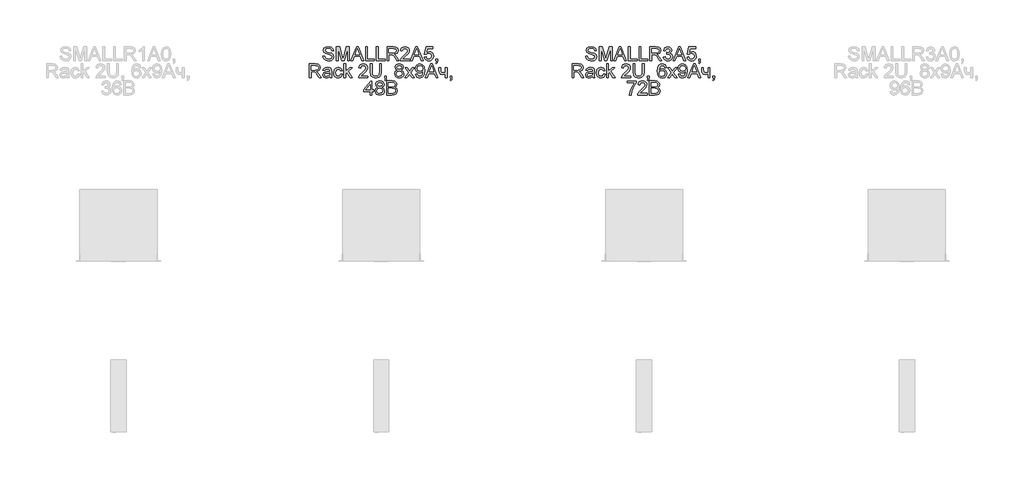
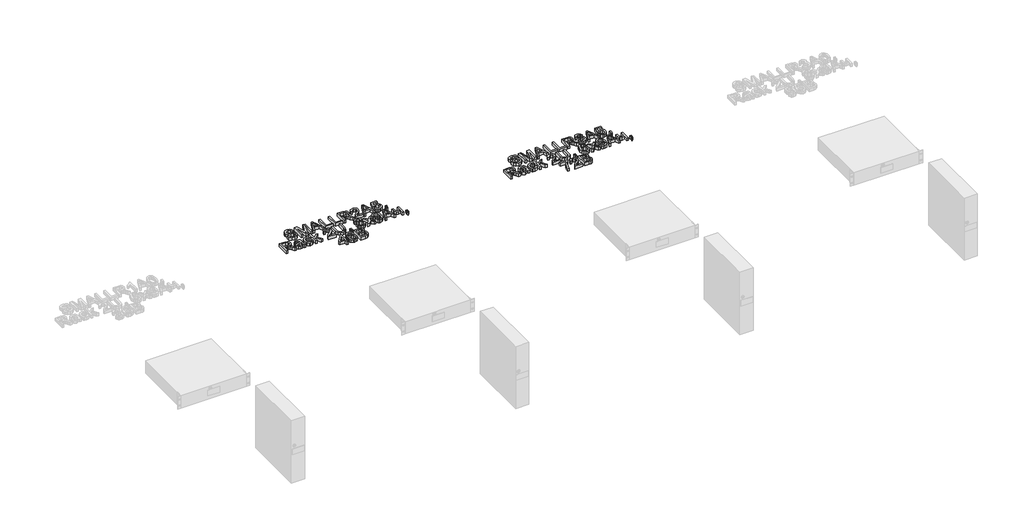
# One storey, part 17 of 74: 2 proxies.
"""IFC4 building model written with IfcOpenShell, lengths in millimetres."""

from ifc_helpers import new_model, si_unit, origin, origin_with_axes, place, context, project, spatial, polyline, outline, extrude, element, save

model = new_model("IFC4")

# Units and contexts
model_context = context("Model", 3, world=origin())
ifc_project = project(units=[si_unit("LENGTHUNIT", "METRE", prefix="MILLI")], contexts=[model_context])

# Site, building, storey
site = spatial("IfcSite", under=ifc_project)
building = spatial("IfcBuilding", under=site)
storey = spatial("IfcBuildingStorey", under=building, Name="Этаж 01", Elevation=0.0)

# Proxies
placement = place(None, origin())
element("IfcBuildingElementProxy", 1, Name="80 мм Arial", ObjectType="80 мм Arial", at=placement, inside=storey, context=model_context, shape_type="SweptSolid", body=[
    extrude(outline(polyline([(4019.2043971, -23060.6810362), (4029.2500281, -23060.6810362), (4032.4873897, -23070.7364774), (4040.3944, -23077.0934783), (4052.4413091, -23079.5165944), (4062.9382087, -23077.6820895), (4069.7170476, -23072.6396536), (4071.9439599, -23065.9000555), (4070.2762282, -23059.6313463), (4063.4483384, -23055.0696095), (4048.8213503, -23051.2338266), (4033.0760009, -23046.2796824), (4024.5313284, -23038.8043203), (4021.7158049, -23028.8175504), (4025.1984211, -23017.4475442), (4035.3715845, -23009.4228116), (4050.2634477, -23006.6857695), (4066.1559499, -23009.550344), (4076.7509513, -23017.967484), (4080.7338871, -23030.5441432), (4070.6882561, -23030.5441432), (4064.9983479, -23020.223827), (4050.6558552, -23016.7314005), (4036.2741217, -23020.1845862), (4031.7614359, -23028.5232448), (4034.9595567, -23035.4884772), (4051.3621886, -23041.0999039), (4069.1382466, -23046.1423398), (4078.8601415, -23054.2847946), (4081.989591, -23065.6449906), (4078.3892525, -23077.6624691), (4068.0296955, -23086.4327759), (4052.8337166, -23089.5622254), (4034.8908854, -23086.1875212), (4023.5404996, -23076.024168), (4019.2043971, -23060.6810362)])), origin_with_axes(), (0.0, 0.0, 1.0), 20.0),
    extrude(outline(polyline([(4097.0580375, -23088.3065215), (4097.0580375, -23007.9414734), (4114.3435862, -23007.9414734), (4130.7854588, -23064.5854905), (4134.1013018, -23076.4165754), (4137.6918301, -23063.6044718), (4153.8590175, -23007.9414734), (4171.1445662, -23007.9414734), (4171.1445662, -23088.3065215), (4161.0989352, -23088.3065215), (4161.0989352, -23017.9871044), (4140.9095713, -23088.3065215), (4127.2930324, -23088.3065215), (4107.1036685, -23017.9871044), (4107.1036685, -23088.3065215), (4097.0580375, -23088.3065215)])), origin_with_axes(), (0.0, 0.0, 1.0), 20.0),
    extrude(outline(polyline([(4179.3655025, -23088.3065215), (4211.4448125, -23007.9414734), (4219.9992952, -23007.9414734), (4252.0786052, -23088.3065215), (4241.4639833, -23088.3065215), (4232.2620283, -23063.192444), (4199.162459, -23063.192444), (4189.9801244, -23088.3065215), (4179.3655025, -23088.3065215)]), holes=[polyline([(4202.8510891, -23053.146813), (4228.5930186, -23053.146813), (4221.3531009, -23033.3890973), (4215.7220538, -23017.9871044), (4210.7188587, -23031.6625045), (4202.8510891, -23053.146813)])]), origin_with_axes(), (0.0, 0.0, 1.0), 20.0),
    extrude(outline(polyline([(4262.8109492, -23088.3065215), (4262.8109492, -23007.9414734), (4272.8565802, -23007.9414734), (4272.8565802, -23078.2608905), (4313.0391043, -23078.2608905), (4313.0391043, -23088.3065215), (4262.8109492, -23088.3065215)])), origin_with_axes(), (0.0, 0.0, 1.0), 20.0),
    extrude(outline(polyline([(4324.3404392, -23088.3065215), (4324.3404392, -23007.9414734), (4334.3860702, -23007.9414734), (4334.3860702, -23078.2608905), (4374.5685943, -23078.2608905), (4374.5685943, -23088.3065215), (4324.3404392, -23088.3065215)])), origin_with_axes(), (0.0, 0.0, 1.0), 20.0),
    extrude(outline(polyline([(4385.8699292, -23088.3065215), (4385.8699292, -23007.9414734), (4420.4998876, -23007.9414734), (4436.5787834, -23010.1095246), (4445.3687105, -23017.7810905), (4448.655123, -23029.9359116), (4443.2104695, -23044.415747), (4426.3859996, -23051.8911091), (4432.0955281, -23056.1879708), (4440.237983, -23066.5279074), (4453.6386978, -23088.3065215), (4441.9645758, -23088.3065215), (4431.5069169, -23071.6488248), (4423.9530733, -23060.6221751), (4418.6457624, -23055.4129661), (4413.8682015, -23053.4999797), (4408.0409507, -23053.146813), (4395.9155602, -23053.146813), (4395.9155602, -23088.3065215), (4385.8699292, -23088.3065215)]), holes=[polyline([(4395.9155602, -23043.101182), (4418.4005077, -23043.101182), (4429.8686158, -23041.6787049), (4436.3825796, -23037.1267784), (4438.609492, -23030.3086987), (4434.3616812, -23021.4599105), (4420.9315358, -23017.9871044), (4395.9155602, -23017.9871044), (4395.9155602, -23043.101182)])]), origin_with_axes(), (0.0, 0.0, 1.0), 20.0),
    extrude(outline(polyline([(4513.9517246, -23078.2608905), (4513.9517246, -23088.3065215), (4461.2121618, -23088.3065215), (4462.2912823, -23081.3805298), (4468.3932183, -23070.7168571), (4480.9698775, -23059.0721656), (4498.3142873, -23042.3359874), (4502.6503897, -23030.956171), (4498.5595419, -23021.7444059), (4487.8762488, -23017.9871044), (4476.7416871, -23021.6561142), (4472.5134967, -23031.7998471), (4462.4678656, -23030.5441432), (4464.9032445, -23020.8271534), (4470.1688621, -23013.7294835), (4477.9900333, -23009.3884759), (4488.0920729, -23007.9414734), (4498.2676889, -23009.550344), (4506.0741448, -23014.3769558), (4511.0405517, -23021.5874429), (4512.6960207, -23030.3479395), (4510.9105668, -23039.8736306), (4504.9754039, -23049.7230579), (4490.5838603, -23063.4867496), (4479.0274605, -23073.1497833), (4474.4951543, -23078.2608905), (4513.9517246, -23078.2608905)])), origin_with_axes(), (0.0, 0.0, 1.0), 20.0),
    extrude(outline(polyline([(4518.4055493, -23088.3065215), (4550.4848593, -23007.9414734), (4559.0393419, -23007.9414734), (4591.1186519, -23088.3065215), (4580.5040301, -23088.3065215), (4571.3020751, -23063.192444), (4538.2025057, -23063.192444), (4529.0201711, -23088.3065215), (4518.4055493, -23088.3065215)]), holes=[polyline([(4541.8911359, -23053.146813), (4567.6330653, -23053.146813), (4560.3931477, -23033.3890973), (4554.7621006, -23017.9871044), (4549.7589055, -23031.6625045), (4541.8911359, -23053.146813)])]), origin_with_axes(), (0.0, 0.0, 1.0), 20.0),
    extrude(outline(polyline([(4598.0838844, -23066.9595556), (4608.1295154, -23065.7038517), (4613.1915716, -23076.0535985), (4623.6884712, -23079.5165944), (4636.2847507, -23074.6997928), (4640.7778162, -23061.9171197), (4636.5692461, -23049.9879329), (4623.8454342, -23045.6125897), (4615.0260765, -23047.3588029), (4609.3852192, -23051.8911091), (4599.3395882, -23050.6354052), (4608.1295154, -23009.1971773), (4647.0563355, -23009.1971773), (4647.0563355, -23019.2428083), (4616.2523498, -23019.2428083), (4611.9554881, -23041.3745891), (4626.6511475, -23035.5669587), (4636.0370435, -23037.3671279), (4643.8287842, -23042.7676356), (4649.0747814, -23050.9983821), (4650.8234472, -23061.2892678), (4649.2489122, -23071.3348988), (4644.5253074, -23079.9286222), (4635.4803154, -23087.1538246), (4623.6492305, -23089.5622254), (4613.7826354, -23088.0146685), (4605.9222234, -23083.3719977), (4600.5339784, -23076.1737733), (4598.0838844, -23066.9595556)])), origin_with_axes(), (0.0, 0.0, 1.0), 20.0),
    extrude(outline(polyline([(4664.6361898, -23088.3065215), (4664.6361898, -23078.2608905), (4674.6818208, -23078.2608905), (4674.6818208, -23088.3065215), (4672.8767465, -23098.5777868), (4667.1475976, -23104.6306719), (4664.6361898, -23100.8635603), (4668.32482, -23096.5274578), (4669.639385, -23088.3065215), (4664.6361898, -23088.3065215)])), origin_with_axes(), (0.0, 0.0, 1.0), 20.0),
    extrude(outline(polyline([(3941.9786087, -23185.8863758), (3941.9786087, -23105.5213277), (3976.6085672, -23105.5213277), (3992.6874629, -23107.6893789), (4001.47739, -23115.3609448), (4004.7638025, -23127.5157659), (3999.319149, -23141.9956012), (3982.4946791, -23149.4709634), (3988.2042077, -23153.7678251), (3996.3466625, -23164.1077617), (4009.7473773, -23185.8863758), (3998.0732553, -23185.8863758), (3987.6155965, -23169.2286791), (3980.0617528, -23158.2020294), (3974.7544419, -23152.9928203), (3969.9768811, -23151.079834), (3964.1496303, -23150.7266673), (3952.0242397, -23150.7266673), (3952.0242397, -23185.8863758), (3941.9786087, -23185.8863758)]), holes=[polyline([(3952.0242397, -23140.6810362), (3974.5091872, -23140.6810362), (3985.9772953, -23139.2585592), (3992.4912592, -23134.7066326), (3994.7181715, -23127.888553), (3990.4703607, -23119.0397647), (3977.0402154, -23115.5669587), (3952.0242397, -23115.5669587), (3952.0242397, -23140.6810362)])]), origin_with_axes(), (0.0, 0.0, 1.0), 20.0),
    extrude(outline(polyline([(4058.7590692, -23178.3521525), (4049.017554, -23185.160422), (4038.2557794, -23187.1420797), (4023.668032, -23182.374329), (4018.5765452, -23170.1900773), (4020.4993417, -23162.2438262), (4025.5515878, -23156.4754366), (4032.5854916, -23153.1792139), (4041.2773168, -23151.6684452), (4058.7002081, -23148.2152595), (4058.7590692, -23145.978537), (4055.9925966, -23138.5620359), (4044.8874655, -23135.6582207), (4034.7241122, -23137.5908275), (4029.8778801, -23144.4481479), (4019.8322491, -23143.192444), (4024.1781617, -23133.3822575), (4032.9288481, -23127.6334881), (4046.1824101, -23125.6125897), (4058.3568516, -23127.3980437), (4065.2337924, -23131.8812989), (4068.3141909, -23138.6993786), (4068.8047003, -23147.4893057), (4068.8047003, -23159.9874833), (4069.31483, -23177.4398052), (4071.316108, -23185.8863758), (4061.270477, -23185.8863758), (4058.7590692, -23178.3521525)]), holes=[polyline([(4058.7590692, -23158.2608905), (4042.5526411, -23161.3412891), (4033.9098667, -23162.9697801), (4029.9956023, -23165.6185304), (4028.6221762, -23169.4837439), (4031.6142831, -23174.9185873), (4040.3944, -23177.0964487), (4050.5577533, -23174.692953), (4057.1109579, -23168.8755123), (4058.7002081, -23161.1058446), (4058.7590692, -23158.2608905)])]), origin_with_axes(), (0.0, 0.0, 1.0), 20.0),
    extrude(outline(polyline([(4120.2885592, -23164.5394099), (4130.3341902, -23165.7951138), (4127.533382, -23174.7297412), (4122.2702169, -23181.481602), (4106.3384739, -23187.1420797), (4095.6527283, -23185.1677796), (4087.2969019, -23179.2448795), (4081.9037518, -23169.6333493), (4080.1060351, -23156.5931588), (4083.1766235, -23139.9060315), (4092.5355415, -23129.1834976), (4106.2011313, -23125.6125897), (4121.4755918, -23130.517683), (4129.0784863, -23144.4481479), (4119.0328553, -23145.7038517), (4114.3730167, -23138.1794387), (4106.2796128, -23135.6582207), (4094.6349214, -23140.6221751), (4090.1516662, -23156.3184736), (4094.5368195, -23172.1619248), (4106.0049276, -23177.0964487), (4115.4717576, -23174.0160501), (4120.2885592, -23164.5394099)])), origin_with_axes(), (0.0, 0.0, 1.0), 20.0),
    extrude(outline(polyline([(4139.1241174, -23185.8863758), (4139.1241174, -23105.5213277), (4149.1697484, -23105.5213277), (4149.1697484, -23148.7057688), (4171.6939367, -23126.8682936), (4185.5851608, -23126.8682936), (4162.7862873, -23148.980454), (4186.8408647, -23185.8863758), (4175.1078816, -23185.8863758), (4155.5856104, -23155.9653069), (4149.1697484, -23162.1849651), (4149.1697484, -23185.8863758), (4139.1241174, -23185.8863758)])), origin_with_axes(), (0.0, 0.0, 1.0), 20.0),
    extrude(outline(polyline([(4275.9958399, -23175.8407448), (4275.9958399, -23185.8863758), (4223.2562771, -23185.8863758), (4224.3353976, -23178.9603841), (4230.4373337, -23168.2967113), (4243.0139928, -23156.6520199), (4260.3584026, -23139.9158417), (4264.694505, -23128.5360253), (4260.6036573, -23119.3242601), (4249.9203641, -23115.5669587), (4238.7858024, -23119.2359685), (4234.557612, -23129.3797013), (4224.511981, -23128.1239975), (4226.9473598, -23118.4070077), (4232.2129774, -23111.3093377), (4240.0341486, -23106.9683302), (4250.1361882, -23105.5213277), (4260.3118042, -23107.1301983), (4268.1182601, -23111.9568101), (4273.0846671, -23119.1672972), (4274.7401361, -23127.9277937), (4272.9546821, -23137.4534849), (4267.0195193, -23147.3029121), (4252.6279756, -23161.0666039), (4241.0715759, -23170.7296376), (4236.5392697, -23175.8407448), (4275.9958399, -23175.8407448)])), origin_with_axes(), (0.0, 0.0, 1.0), 20.0),
    extrude(outline(polyline([(4342.5481454, -23105.5213277), (4352.5937764, -23105.5213277), (4352.5937764, -23151.8842693), (4349.8665446, -23171.1024247), (4340.0367377, -23182.6784448), (4321.3973832, -23187.1420797), (4303.0425242, -23183.2572458), (4292.8595506, -23172.0049619), (4289.8085826, -23151.8842693), (4289.8085826, -23105.5213277), (4299.8542136, -23105.5213277), (4299.8542136, -23151.5311025), (4301.8358713, -23166.8448037), (4308.6441407, -23174.4280779), (4320.4556053, -23177.0964487), (4330.6729146, -23175.7769786), (4337.4664688, -23171.8185683), (4341.2777263, -23164.1077617), (4342.5481454, -23151.5311025), (4342.5481454, -23105.5213277)])), origin_with_axes(), (0.0, 0.0, 1.0), 20.0),
    extrude(outline(polyline([(4371.4293346, -23185.8863758), (4371.4293346, -23175.8407448), (4381.4749656, -23175.8407448), (4381.4749656, -23185.8863758), (4379.6698913, -23196.1576411), (4373.9407423, -23202.2105262), (4371.4293346, -23198.4434146), (4375.1179647, -23194.1073121), (4376.4325297, -23185.8863758), (4371.4293346, -23185.8863758)])), origin_with_axes(), (0.0, 0.0, 1.0), 20.0),
    extrude(outline(polyline([(4443.8285112, -23141.6228141), (4434.6756072, -23135.3835355), (4431.7031207, -23125.6714508), (4433.3218014, -23117.8183965), (4438.1778438, -23111.3289581), (4445.7267823, -23106.9732353), (4455.4241517, -23105.5213277), (4465.1803822, -23107.0075709), (4472.8274226, -23111.4663007), (4477.7717566, -23118.0587461), (4479.419868, -23125.9461361), (4476.4866222, -23135.4129661), (4467.588783, -23141.6228141), (4478.2720762, -23149.5003939), (4481.9312757, -23162.4988911), (4480.1163912, -23172.1030637), (4474.6717377, -23180.0395046), (4466.2644078, -23185.3664359), (4455.5614943, -23187.1420797), (4444.8585808, -23185.3590783), (4436.4512509, -23180.0100741), (4431.0065974, -23171.9976042), (4429.1917129, -23162.2242059), (4432.9980653, -23148.9215929), (4443.8285112, -23141.6228141)]), holes=[polyline([(4441.7487517, -23125.9657564), (4445.3098494, -23133.8531464), (4455.6792166, -23136.9139246), (4465.8425698, -23133.8727668), (4469.374237, -23126.417025), (4465.7248476, -23118.6964082), (4455.5614943, -23115.5669587), (4445.3687105, -23118.6277369), (4441.7487517, -23125.9657564)]), polyline([(4439.2373439, -23161.8710392), (4440.9148858, -23169.434693), (4446.8500487, -23175.0951706), (4455.6399758, -23177.0964487), (4467.6084034, -23172.8878786), (4471.8856447, -23162.1849651), (4467.4710608, -23151.2760377), (4455.3064295, -23146.9595556), (4443.4851547, -23151.2171766), (4439.2373439, -23161.8710392)])]), origin_with_axes(), (0.0, 0.0, 1.0), 20.0),
    extrude(outline(polyline([(4486.9540912, -23185.8863758), (4508.4187794, -23156.2203717), (4488.2097951, -23126.8682936), (4500.2959449, -23126.8682936), (4510.0472704, -23140.9949622), (4514.5991969, -23147.6658891), (4518.5428919, -23142.2114253), (4529.6480231, -23126.8682936), (4541.7341729, -23126.8682936), (4520.5049292, -23156.2203717), (4540.949358, -23185.8863758), (4528.8632081, -23185.8863758), (4516.5612342, -23168.0514567), (4514.3048913, -23164.7944747), (4499.0402411, -23185.8863758), (4486.9540912, -23185.8863758)])), origin_with_axes(), (0.0, 0.0, 1.0), 20.0),
    extrude(outline(polyline([(4548.4835812, -23165.7951138), (4558.5292122, -23164.5394099), (4563.041898, -23174.1239621), (4571.5963807, -23177.0964487), (4579.7290253, -23175.1834623), (4585.2423502, -23170.0723551), (4588.5287627, -23161.3412891), (4589.9806703, -23149.6867875), (4589.9218092, -23147.7247502), (4581.8872664, -23155.3374549), (4570.8704269, -23158.2608905), (4561.7101652, -23156.4754366), (4554.0851977, -23151.1190747), (4548.9422074, -23142.8441824), (4547.2278773, -23132.3031369), (4549.025594, -23121.4138299), (4554.4187441, -23112.8789676), (4562.5195056, -23107.3607377), (4572.4400567, -23105.5213277), (4586.7531189, -23109.7200875), (4596.6025462, -23121.6885151), (4599.9674402, -23144.1734626), (4596.6123564, -23168.5713966), (4586.6353967, -23182.3939494), (4571.1254917, -23187.1420797), (4562.5366734, -23185.7416756), (4555.6842581, -23181.5404632), (4548.4835812, -23165.7951138)]), holes=[polyline([(4589.9218092, -23132.0676925), (4585.5857067, -23120.0207834), (4574.0685477, -23115.5669587), (4561.9823979, -23120.3641399), (4557.2735084, -23132.7936463), (4561.727333, -23143.928208), (4573.7938625, -23148.2152595), (4585.3796928, -23143.928208), (4589.9218092, -23132.0676925)])]), origin_with_axes(), (0.0, 0.0, 1.0), 20.0),
    extrude(outline(polyline([(4603.165561, -23185.8863758), (4635.244871, -23105.5213277), (4643.7993536, -23105.5213277), (4675.8786636, -23185.8863758), (4665.2640418, -23185.8863758), (4656.0620868, -23160.7722983), (4622.9625174, -23160.7722983), (4613.7801828, -23185.8863758), (4603.165561, -23185.8863758)]), holes=[polyline([(4626.6511475, -23150.7266673), (4652.393077, -23150.7266673), (4645.1531594, -23130.9689516), (4639.5221123, -23115.5669587), (4634.5189172, -23129.2423587), (4626.6511475, -23150.7266673)])]), origin_with_axes(), (0.0, 0.0, 1.0), 20.0),
    extrude(outline(polyline([(4681.5881922, -23126.8682936), (4691.6338232, -23126.8682936), (4691.6338232, -23138.1892489), (4692.4480687, -23148.8038707), (4696.3623331, -23154.55264), (4704.1320008, -23157.0051866), (4718.0036046, -23153.9640288), (4718.0036046, -23126.8682936), (4728.0492356, -23126.8682936), (4728.0492356, -23185.8863758), (4718.0036046, -23185.8863758), (4718.0036046, -23163.597632), (4701.4440097, -23167.0508177), (4690.0543831, -23163.4504792), (4683.3540257, -23154.6311215), (4681.5881922, -23143.1532032), (4681.5881922, -23126.8682936)])), origin_with_axes(), (0.0, 0.0, 1.0), 20.0),
    extrude(outline(polyline([(4745.6290899, -23185.8863758), (4745.6290899, -23175.8407448), (4755.6747209, -23175.8407448), (4755.6747209, -23185.8863758), (4753.8696466, -23196.1576411), (4748.1404976, -23202.2105262), (4745.6290899, -23198.4434146), (4749.31772, -23194.1073121), (4750.632285, -23185.8863758), (4745.6290899, -23185.8863758)])), origin_with_axes(), (0.0, 0.0, 1.0), 20.0),
    extrude(outline(polyline([(4289.1807306, -23283.4662301), (4289.1807306, -23264.6306719), (4252.7653182, -23264.6306719), (4252.7653182, -23254.5850409), (4291.6921384, -23204.3568858), (4299.2263617, -23204.3568858), (4299.2263617, -23254.5850409), (4309.2719927, -23254.5850409), (4309.2719927, -23264.6306719), (4299.2263617, -23264.6306719), (4299.2263617, -23283.4662301), (4289.1807306, -23283.4662301)]), holes=[polyline([(4289.1807306, -23254.5850409), (4289.1807306, -23223.5456107), (4265.1261532, -23254.5850409), (4289.1807306, -23254.5850409)])]), origin_with_axes(), (0.0, 0.0, 1.0), 20.0),
    extrude(outline(polyline([(4332.6987181, -23239.2026684), (4323.5458141, -23232.9633898), (4320.5733276, -23223.2513051), (4322.1920083, -23215.3982508), (4327.0480507, -23208.9088124), (4334.5969892, -23204.5530896), (4344.2943586, -23203.101182), (4354.0505891, -23204.5874252), (4361.6976295, -23209.046155), (4366.6419635, -23215.6386004), (4368.2900749, -23223.5259903), (4365.3568291, -23232.9928203), (4356.4589899, -23239.2026684), (4367.1422831, -23247.0802482), (4370.8014826, -23260.0787454), (4368.9865981, -23269.682918), (4363.5419446, -23277.6193589), (4355.1346147, -23282.9462902), (4344.4317012, -23284.721934), (4333.7287877, -23282.9389326), (4325.3214578, -23277.5899283), (4319.8768043, -23269.5774585), (4318.0619198, -23259.8040602), (4321.8682722, -23246.5014472), (4332.6987181, -23239.2026684)]), holes=[polyline([(4330.6189586, -23223.5456107), (4334.1800563, -23231.4330007), (4344.5494235, -23234.4937789), (4354.7127767, -23231.4526211), (4358.2444439, -23223.9968793), (4354.5950545, -23216.2762625), (4344.4317012, -23213.146813), (4334.2389174, -23216.2075912), (4330.6189586, -23223.5456107)]), polyline([(4328.1075508, -23259.4508934), (4329.7850927, -23267.0145473), (4335.7202556, -23272.6750249), (4344.5101827, -23274.6763029), (4356.4786103, -23270.4677329), (4360.7558516, -23259.7648194), (4356.3412677, -23248.855892), (4344.1766364, -23244.5394099), (4332.3553616, -23248.7970309), (4328.1075508, -23259.4508934)])]), origin_with_axes(), (0.0, 0.0, 1.0), 20.0),
    extrude(outline(polyline([(4383.3585214, -23283.4662301), (4383.3585214, -23203.101182), (4414.0251645, -23203.101182), (4429.0445601, -23205.4654369), (4437.9129687, -23212.7347851), (4441.1208997, -23223.0158606), (4438.4230984, -23232.4042091), (4430.2708334, -23239.5165944), (4440.1693116, -23247.0115769), (4443.6323075, -23259.5097546), (4441.2680525, -23270.3107699), (4435.4113712, -23278.0019562), (4426.670495, -23282.0829938), (4413.78972, -23283.4662301), (4383.3585214, -23283.4662301)]), holes=[polyline([(4393.4041524, -23235.7494828), (4411.7492012, -23235.7494828), (4422.4619249, -23234.8861863), (4428.9072175, -23231.1681256), (4431.0752687, -23224.6247312), (4429.0543703, -23218.0715266), (4423.2663602, -23214.1965029), (4410.3561548, -23213.146813), (4393.4041524, -23213.146813), (4393.4041524, -23235.7494828)]), polyline([(4393.4041524, -23273.4205991), (4414.0055442, -23273.4205991), (4421.4612859, -23273.0281916), (4427.7692359, -23270.84052), (4431.9483753, -23266.3768851), (4433.5866765, -23259.6078564), (4431.6638799, -23251.7989479), (4425.4344115, -23247.1391093), (4413.0245255, -23245.7951138), (4393.4041524, -23245.7951138), (4393.4041524, -23273.4205991)])]), origin_with_axes(), (0.0, 0.0, 1.0), 20.0),
])
element("IfcBuildingElementProxy", 2, Name="80 мм Arial", ObjectType="80 мм Arial", at=placement, inside=storey, context=model_context, shape_type="SweptSolid", body=[
    extrude(outline(polyline([(5519.2043971, -23060.6810362), (5529.2500281, -23060.6810362), (5532.4873897, -23070.7364774), (5540.3944, -23077.0934783), (5552.4413091, -23079.5165944), (5562.9382087, -23077.6820895), (5569.7170476, -23072.6396536), (5571.9439599, -23065.9000555), (5570.2762282, -23059.6313463), (5563.4483384, -23055.0696095), (5548.8213503, -23051.2338266), (5533.0760009, -23046.2796824), (5524.5313284, -23038.8043203), (5521.7158049, -23028.8175504), (5525.1984211, -23017.4475442), (5535.3715845, -23009.4228116), (5550.2634477, -23006.6857695), (5566.1559499, -23009.550344), (5576.7509513, -23017.967484), (5580.7338871, -23030.5441432), (5570.6882561, -23030.5441432), (5564.9983479, -23020.223827), (5550.6558552, -23016.7314005), (5536.2741217, -23020.1845862), (5531.7614359, -23028.5232448), (5534.9595567, -23035.4884772), (5551.3621886, -23041.0999039), (5569.1382466, -23046.1423398), (5578.8601415, -23054.2847946), (5581.989591, -23065.6449906), (5578.3892525, -23077.6624691), (5568.0296955, -23086.4327759), (5552.8337166, -23089.5622254), (5534.8908854, -23086.1875212), (5523.5404996, -23076.024168), (5519.2043971, -23060.6810362)])), origin_with_axes(), (0.0, 0.0, 1.0), 20.0),
    extrude(outline(polyline([(5597.0580375, -23088.3065215), (5597.0580375, -23007.9414734), (5614.3435862, -23007.9414734), (5630.7854588, -23064.5854905), (5634.1013018, -23076.4165754), (5637.6918301, -23063.6044718), (5653.8590175, -23007.9414734), (5671.1445662, -23007.9414734), (5671.1445662, -23088.3065215), (5661.0989352, -23088.3065215), (5661.0989352, -23017.9871044), (5640.9095713, -23088.3065215), (5627.2930324, -23088.3065215), (5607.1036685, -23017.9871044), (5607.1036685, -23088.3065215), (5597.0580375, -23088.3065215)])), origin_with_axes(), (0.0, 0.0, 1.0), 20.0),
    extrude(outline(polyline([(5679.3655025, -23088.3065215), (5711.4448125, -23007.9414734), (5719.9992952, -23007.9414734), (5752.0786052, -23088.3065215), (5741.4639833, -23088.3065215), (5732.2620283, -23063.192444), (5699.162459, -23063.192444), (5689.9801244, -23088.3065215), (5679.3655025, -23088.3065215)]), holes=[polyline([(5702.8510891, -23053.146813), (5728.5930186, -23053.146813), (5721.3531009, -23033.3890973), (5715.7220538, -23017.9871044), (5710.7188587, -23031.6625045), (5702.8510891, -23053.146813)])]), origin_with_axes(), (0.0, 0.0, 1.0), 20.0),
    extrude(outline(polyline([(5762.8109492, -23088.3065215), (5762.8109492, -23007.9414734), (5772.8565802, -23007.9414734), (5772.8565802, -23078.2608905), (5813.0391043, -23078.2608905), (5813.0391043, -23088.3065215), (5762.8109492, -23088.3065215)])), origin_with_axes(), (0.0, 0.0, 1.0), 20.0),
    extrude(outline(polyline([(5824.3404392, -23088.3065215), (5824.3404392, -23007.9414734), (5834.3860702, -23007.9414734), (5834.3860702, -23078.2608905), (5874.5685943, -23078.2608905), (5874.5685943, -23088.3065215), (5824.3404392, -23088.3065215)])), origin_with_axes(), (0.0, 0.0, 1.0), 20.0),
    extrude(outline(polyline([(5885.8699292, -23088.3065215), (5885.8699292, -23007.9414734), (5920.4998876, -23007.9414734), (5936.5787834, -23010.1095246), (5945.3687105, -23017.7810905), (5948.655123, -23029.9359116), (5943.2104695, -23044.415747), (5926.3859996, -23051.8911091), (5932.0955281, -23056.1879708), (5940.237983, -23066.5279074), (5953.6386978, -23088.3065215), (5941.9645758, -23088.3065215), (5931.5069169, -23071.6488248), (5923.9530733, -23060.6221751), (5918.6457624, -23055.4129661), (5913.8682015, -23053.4999797), (5908.0409507, -23053.146813), (5895.9155602, -23053.146813), (5895.9155602, -23088.3065215), (5885.8699292, -23088.3065215)]), holes=[polyline([(5895.9155602, -23043.101182), (5918.4005077, -23043.101182), (5929.8686158, -23041.6787049), (5936.3825796, -23037.1267784), (5938.609492, -23030.3086987), (5934.3616812, -23021.4599105), (5920.9315358, -23017.9871044), (5895.9155602, -23017.9871044), (5895.9155602, -23043.101182)])]), origin_with_axes(), (0.0, 0.0, 1.0), 20.0),
    extrude(outline(polyline([(5962.4678656, -23066.9595556), (5972.5134967, -23065.7038517), (5978.0562521, -23076.2792328), (5988.4256192, -23079.5165944), (6000.6294913, -23075.0627697), (6005.1617975, -23064.03612), (6000.668732, -23053.6471325), (5989.2496749, -23049.5366643), (5982.205961, -23050.6354052), (5983.3243222, -23040.5897742), (5984.9331928, -23040.7074964), (5996.3326296, -23037.8233016), (6001.3946858, -23028.954893), (5997.7256761, -23021.0969336), (5988.2686562, -23017.9871044), (5978.6939142, -23021.1263641), (5973.7692005, -23030.5441432), (5963.7235695, -23029.2884393), (5971.9445058, -23013.5332797), (5987.9154895, -23007.9414734), (6000.0310699, -23010.6981358), (6008.5070711, -23018.2323591), (6011.4403168, -23028.3662818), (6008.6542239, -23037.6270979), (6000.4136672, -23044.2784043), (6011.3618354, -23051.1455349), (6015.2074285, -23064.2127034), (6013.2846319, -23074.0032696), (6007.5162422, -23082.1849651), (5998.8097017, -23087.7179103), (5988.0724525, -23089.5622254), (5978.3603678, -23087.9876905), (5970.4533575, -23083.2640856), (5964.9547479, -23076.0388833), (5962.4678656, -23066.9595556)])), origin_with_axes(), (0.0, 0.0, 1.0), 20.0),
    extrude(outline(polyline([(6018.4055493, -23088.3065215), (6050.4848593, -23007.9414734), (6059.0393419, -23007.9414734), (6091.1186519, -23088.3065215), (6080.5040301, -23088.3065215), (6071.3020751, -23063.192444), (6038.2025057, -23063.192444), (6029.0201711, -23088.3065215), (6018.4055493, -23088.3065215)]), holes=[polyline([(6041.8911359, -23053.146813), (6067.6330653, -23053.146813), (6060.3931477, -23033.3890973), (6054.7621006, -23017.9871044), (6049.7589055, -23031.6625045), (6041.8911359, -23053.146813)])]), origin_with_axes(), (0.0, 0.0, 1.0), 20.0),
    extrude(outline(polyline([(6098.0838844, -23066.9595556), (6108.1295154, -23065.7038517), (6113.1915716, -23076.0535985), (6123.6884712, -23079.5165944), (6136.2847507, -23074.6997928), (6140.7778162, -23061.9171197), (6136.5692461, -23049.9879329), (6123.8454342, -23045.6125897), (6115.0260765, -23047.3588029), (6109.3852192, -23051.8911091), (6099.3395882, -23050.6354052), (6108.1295154, -23009.1971773), (6147.0563355, -23009.1971773), (6147.0563355, -23019.2428083), (6116.2523498, -23019.2428083), (6111.9554881, -23041.3745891), (6126.6511475, -23035.5669587), (6136.0370435, -23037.3671279), (6143.8287842, -23042.7676356), (6149.0747814, -23050.9983821), (6150.8234472, -23061.2892678), (6149.2489122, -23071.3348988), (6144.5253074, -23079.9286222), (6135.4803154, -23087.1538246), (6123.6492305, -23089.5622254), (6113.7826354, -23088.0146685), (6105.9222234, -23083.3719977), (6100.5339784, -23076.1737733), (6098.0838844, -23066.9595556)])), origin_with_axes(), (0.0, 0.0, 1.0), 20.0),
    extrude(outline(polyline([(6164.6361898, -23088.3065215), (6164.6361898, -23078.2608905), (6174.6818208, -23078.2608905), (6174.6818208, -23088.3065215), (6172.8767465, -23098.5777868), (6167.1475976, -23104.6306719), (6164.6361898, -23100.8635603), (6168.32482, -23096.5274578), (6169.639385, -23088.3065215), (6164.6361898, -23088.3065215)])), origin_with_axes(), (0.0, 0.0, 1.0), 20.0),
    extrude(outline(polyline([(5441.9786087, -23185.8863758), (5441.9786087, -23105.5213277), (5476.6085672, -23105.5213277), (5492.6874629, -23107.6893789), (5501.47739, -23115.3609448), (5504.7638025, -23127.5157659), (5499.319149, -23141.9956012), (5482.4946791, -23149.4709634), (5488.2042077, -23153.7678251), (5496.3466625, -23164.1077617), (5509.7473773, -23185.8863758), (5498.0732553, -23185.8863758), (5487.6155965, -23169.2286791), (5480.0617528, -23158.2020294), (5474.7544419, -23152.9928203), (5469.9768811, -23151.079834), (5464.1496303, -23150.7266673), (5452.0242397, -23150.7266673), (5452.0242397, -23185.8863758), (5441.9786087, -23185.8863758)]), holes=[polyline([(5452.0242397, -23140.6810362), (5474.5091872, -23140.6810362), (5485.9772953, -23139.2585592), (5492.4912592, -23134.7066326), (5494.7181715, -23127.888553), (5490.4703607, -23119.0397647), (5477.0402154, -23115.5669587), (5452.0242397, -23115.5669587), (5452.0242397, -23140.6810362)])]), origin_with_axes(), (0.0, 0.0, 1.0), 20.0),
    extrude(outline(polyline([(5558.7590692, -23178.3521525), (5549.017554, -23185.160422), (5538.2557794, -23187.1420797), (5523.668032, -23182.374329), (5518.5765452, -23170.1900773), (5520.4993417, -23162.2438262), (5525.5515878, -23156.4754366), (5532.5854916, -23153.1792139), (5541.2773168, -23151.6684452), (5558.7002081, -23148.2152595), (5558.7590692, -23145.978537), (5555.9925966, -23138.5620359), (5544.8874655, -23135.6582207), (5534.7241122, -23137.5908275), (5529.8778801, -23144.4481479), (5519.8322491, -23143.192444), (5524.1781617, -23133.3822575), (5532.9288481, -23127.6334881), (5546.1824101, -23125.6125897), (5558.3568516, -23127.3980437), (5565.2337924, -23131.8812989), (5568.3141909, -23138.6993786), (5568.8047003, -23147.4893057), (5568.8047003, -23159.9874833), (5569.31483, -23177.4398052), (5571.316108, -23185.8863758), (5561.270477, -23185.8863758), (5558.7590692, -23178.3521525)]), holes=[polyline([(5558.7590692, -23158.2608905), (5542.5526411, -23161.3412891), (5533.9098667, -23162.9697801), (5529.9956023, -23165.6185304), (5528.6221762, -23169.4837439), (5531.6142831, -23174.9185873), (5540.3944, -23177.0964487), (5550.5577533, -23174.692953), (5557.1109579, -23168.8755123), (5558.7002081, -23161.1058446), (5558.7590692, -23158.2608905)])]), origin_with_axes(), (0.0, 0.0, 1.0), 20.0),
    extrude(outline(polyline([(5620.2885592, -23164.5394099), (5630.3341902, -23165.7951138), (5627.533382, -23174.7297412), (5622.2702169, -23181.481602), (5606.3384739, -23187.1420797), (5595.6527283, -23185.1677796), (5587.2969019, -23179.2448795), (5581.9037518, -23169.6333493), (5580.1060351, -23156.5931588), (5583.1766235, -23139.9060315), (5592.5355415, -23129.1834976), (5606.2011313, -23125.6125897), (5621.4755918, -23130.517683), (5629.0784863, -23144.4481479), (5619.0328553, -23145.7038517), (5614.3730167, -23138.1794387), (5606.2796128, -23135.6582207), (5594.6349214, -23140.6221751), (5590.1516662, -23156.3184736), (5594.5368195, -23172.1619248), (5606.0049276, -23177.0964487), (5615.4717576, -23174.0160501), (5620.2885592, -23164.5394099)])), origin_with_axes(), (0.0, 0.0, 1.0), 20.0),
    extrude(outline(polyline([(5639.1241174, -23185.8863758), (5639.1241174, -23105.5213277), (5649.1697484, -23105.5213277), (5649.1697484, -23148.7057688), (5671.6939367, -23126.8682936), (5685.5851608, -23126.8682936), (5662.7862873, -23148.980454), (5686.8408647, -23185.8863758), (5675.1078816, -23185.8863758), (5655.5856104, -23155.9653069), (5649.1697484, -23162.1849651), (5649.1697484, -23185.8863758), (5639.1241174, -23185.8863758)])), origin_with_axes(), (0.0, 0.0, 1.0), 20.0),
    extrude(outline(polyline([(5775.9958399, -23175.8407448), (5775.9958399, -23185.8863758), (5723.2562771, -23185.8863758), (5724.3353976, -23178.9603841), (5730.4373337, -23168.2967113), (5743.0139928, -23156.6520199), (5760.3584026, -23139.9158417), (5764.694505, -23128.5360253), (5760.6036573, -23119.3242601), (5749.9203641, -23115.5669587), (5738.7858024, -23119.2359685), (5734.557612, -23129.3797013), (5724.511981, -23128.1239975), (5726.9473598, -23118.4070077), (5732.2129774, -23111.3093377), (5740.0341486, -23106.9683302), (5750.1361882, -23105.5213277), (5760.3118042, -23107.1301983), (5768.1182601, -23111.9568101), (5773.0846671, -23119.1672972), (5774.7401361, -23127.9277937), (5772.9546821, -23137.4534849), (5767.0195193, -23147.3029121), (5752.6279756, -23161.0666039), (5741.0715759, -23170.7296376), (5736.5392697, -23175.8407448), (5775.9958399, -23175.8407448)])), origin_with_axes(), (0.0, 0.0, 1.0), 20.0),
    extrude(outline(polyline([(5842.5481454, -23105.5213277), (5852.5937764, -23105.5213277), (5852.5937764, -23151.8842693), (5849.8665446, -23171.1024247), (5840.0367377, -23182.6784448), (5821.3973832, -23187.1420797), (5803.0425242, -23183.2572458), (5792.8595506, -23172.0049619), (5789.8085826, -23151.8842693), (5789.8085826, -23105.5213277), (5799.8542136, -23105.5213277), (5799.8542136, -23151.5311025), (5801.8358713, -23166.8448037), (5808.6441407, -23174.4280779), (5820.4556053, -23177.0964487), (5830.6729146, -23175.7769786), (5837.4664688, -23171.8185683), (5841.2777263, -23164.1077617), (5842.5481454, -23151.5311025), (5842.5481454, -23105.5213277)])), origin_with_axes(), (0.0, 0.0, 1.0), 20.0),
    extrude(outline(polyline([(5871.4293346, -23185.8863758), (5871.4293346, -23175.8407448), (5881.4749656, -23175.8407448), (5881.4749656, -23185.8863758), (5879.6698913, -23196.1576411), (5873.9407423, -23202.2105262), (5871.4293346, -23198.4434146), (5875.1179647, -23194.1073121), (5876.4325297, -23185.8863758), (5871.4293346, -23185.8863758)])), origin_with_axes(), (0.0, 0.0, 1.0), 20.0),
    extrude(outline(polyline([(5980.6755719, -23126.8682936), (5970.6299408, -23128.1239975), (5966.8235885, -23119.7460982), (5956.7583371, -23115.5669587), (5947.6937247, -23117.999885), (5940.8364043, -23127.1331686), (5937.98164, -23145.0367591), (5946.8402385, -23137.0218367), (5957.8178372, -23134.4025169), (5967.0982737, -23136.1928759), (5974.8875618, -23141.563953), (5980.1703473, -23149.7701741), (5981.9312757, -23160.0659648), (5978.6154327, -23173.9277584), (5969.4919592, -23183.737945), (5956.3266889, -23187.1420797), (5944.9297047, -23184.8857368), (5935.8528296, -23178.1167081), (5929.9152142, -23166.1679009), (5927.936009, -23148.3722225), (5930.1334908, -23128.364347), (5936.7259362, -23114.6840419), (5945.7267823, -23107.8120062), (5957.386189, -23105.5213277), (5966.2006416, -23106.9388996), (5973.2590708, -23111.1916155), (5980.6755719, -23126.8682936)]), holes=[polyline([(5937.98164, -23159.9090019), (5940.3066543, -23168.6106373), (5946.4870718, -23174.9283974), (5955.541874, -23177.0964487), (5967.3827691, -23172.6033832), (5971.8856447, -23160.3995112), (5967.4416302, -23148.715579), (5955.1298461, -23144.4481479), (5942.975025, -23148.715579), (5937.98164, -23159.9090019)])]), origin_with_axes(), (0.0, 0.0, 1.0), 20.0),
    extrude(outline(polyline([(5986.9540912, -23185.8863758), (6008.4187794, -23156.2203717), (5988.2097951, -23126.8682936), (6000.2959449, -23126.8682936), (6010.0472704, -23140.9949622), (6014.5991969, -23147.6658891), (6018.5428919, -23142.2114253), (6029.6480231, -23126.8682936), (6041.7341729, -23126.8682936), (6020.5049292, -23156.2203717), (6040.949358, -23185.8863758), (6028.8632081, -23185.8863758), (6016.5612342, -23168.0514567), (6014.3048913, -23164.7944747), (5999.0402411, -23185.8863758), (5986.9540912, -23185.8863758)])), origin_with_axes(), (0.0, 0.0, 1.0), 20.0),
    extrude(outline(polyline([(6048.4835812, -23165.7951138), (6058.5292122, -23164.5394099), (6063.041898, -23174.1239621), (6071.5963807, -23177.0964487), (6079.7290253, -23175.1834623), (6085.2423502, -23170.0723551), (6088.5287627, -23161.3412891), (6089.9806703, -23149.6867875), (6089.9218092, -23147.7247502), (6081.8872664, -23155.3374549), (6070.8704269, -23158.2608905), (6061.7101652, -23156.4754366), (6054.0851977, -23151.1190747), (6048.9422074, -23142.8441824), (6047.2278773, -23132.3031369), (6049.025594, -23121.4138299), (6054.4187441, -23112.8789676), (6062.5195056, -23107.3607377), (6072.4400567, -23105.5213277), (6086.7531189, -23109.7200875), (6096.6025462, -23121.6885151), (6099.9674402, -23144.1734626), (6096.6123564, -23168.5713966), (6086.6353967, -23182.3939494), (6071.1254917, -23187.1420797), (6062.5366734, -23185.7416756), (6055.6842581, -23181.5404632), (6048.4835812, -23165.7951138)]), holes=[polyline([(6089.9218092, -23132.0676925), (6085.5857067, -23120.0207834), (6074.0685477, -23115.5669587), (6061.9823979, -23120.3641399), (6057.2735084, -23132.7936463), (6061.727333, -23143.928208), (6073.7938625, -23148.2152595), (6085.3796928, -23143.928208), (6089.9218092, -23132.0676925)])]), origin_with_axes(), (0.0, 0.0, 1.0), 20.0),
    extrude(outline(polyline([(6103.165561, -23185.8863758), (6135.244871, -23105.5213277), (6143.7993536, -23105.5213277), (6175.8786636, -23185.8863758), (6165.2640418, -23185.8863758), (6156.0620868, -23160.7722983), (6122.9625174, -23160.7722983), (6113.7801828, -23185.8863758), (6103.165561, -23185.8863758)]), holes=[polyline([(6126.6511475, -23150.7266673), (6152.393077, -23150.7266673), (6145.1531594, -23130.9689516), (6139.5221123, -23115.5669587), (6134.5189172, -23129.2423587), (6126.6511475, -23150.7266673)])]), origin_with_axes(), (0.0, 0.0, 1.0), 20.0),
    extrude(outline(polyline([(6181.5881922, -23126.8682936), (6191.6338232, -23126.8682936), (6191.6338232, -23138.1892489), (6192.4480687, -23148.8038707), (6196.3623331, -23154.55264), (6204.1320008, -23157.0051866), (6218.0036046, -23153.9640288), (6218.0036046, -23126.8682936), (6228.0492356, -23126.8682936), (6228.0492356, -23185.8863758), (6218.0036046, -23185.8863758), (6218.0036046, -23163.597632), (6201.4440097, -23167.0508177), (6190.0543831, -23163.4504792), (6183.3540257, -23154.6311215), (6181.5881922, -23143.1532032), (6181.5881922, -23126.8682936)])), origin_with_axes(), (0.0, 0.0, 1.0), 20.0),
    extrude(outline(polyline([(6245.6290899, -23185.8863758), (6245.6290899, -23175.8407448), (6255.6747209, -23175.8407448), (6255.6747209, -23185.8863758), (6253.8696466, -23196.1576411), (6248.1404976, -23202.2105262), (6245.6290899, -23198.4434146), (6249.31772, -23194.1073121), (6250.632285, -23185.8863758), (6245.6290899, -23185.8863758)])), origin_with_axes(), (0.0, 0.0, 1.0), 20.0),
    extrude(outline(polyline([(5756.5324298, -23214.4025169), (5756.5324298, -23204.3568858), (5809.2719927, -23204.3568858), (5809.2719927, -23212.4797203), (5794.3114582, -23234.0915612), (5782.8629705, -23261.6287548), (5779.1350996, -23283.4662301), (5769.0894686, -23283.4662301), (5773.0822145, -23260.8046992), (5784.0401929, -23235.1903021), (5799.2263617, -23214.4025169), (5756.5324298, -23214.4025169)])), origin_with_axes(), (0.0, 0.0, 1.0), 20.0),
    extrude(outline(polyline([(5869.5457788, -23273.4205991), (5869.5457788, -23283.4662301), (5816.8062159, -23283.4662301), (5817.8853365, -23276.5402384), (5823.9872725, -23265.8765656), (5836.5639316, -23254.2318742), (5853.9083414, -23237.495696), (5858.2444439, -23226.1158796), (5854.1535961, -23216.9041144), (5843.4703029, -23213.146813), (5832.3357412, -23216.8158227), (5828.1075508, -23226.9595556), (5818.0619198, -23225.7038517), (5820.4972986, -23215.986862), (5825.7629162, -23208.889192), (5833.5840875, -23204.5481845), (5843.686127, -23203.101182), (5853.861743, -23204.7100526), (5861.668199, -23209.5366643), (5866.6346059, -23216.7471514), (5868.2900749, -23225.507648), (5866.5046209, -23235.0333391), (5860.5694581, -23244.8827664), (5846.1779144, -23258.6464581), (5834.6215147, -23268.3094919), (5830.0892085, -23273.4205991), (5869.5457788, -23273.4205991)])), origin_with_axes(), (0.0, 0.0, 1.0), 20.0),
    extrude(outline(polyline([(5883.3585214, -23283.4662301), (5883.3585214, -23203.101182), (5914.0251645, -23203.101182), (5929.0445601, -23205.4654369), (5937.9129687, -23212.7347851), (5941.1208997, -23223.0158606), (5938.4230984, -23232.4042091), (5930.2708334, -23239.5165944), (5940.1693116, -23247.0115769), (5943.6323075, -23259.5097546), (5941.2680525, -23270.3107699), (5935.4113712, -23278.0019562), (5926.670495, -23282.0829938), (5913.78972, -23283.4662301), (5883.3585214, -23283.4662301)]), holes=[polyline([(5893.4041524, -23273.4205991), (5914.0055442, -23273.4205991), (5921.4612859, -23273.0281916), (5927.7692359, -23270.84052), (5931.9483753, -23266.3768851), (5933.5866765, -23259.6078564), (5931.6638799, -23251.7989479), (5925.4344115, -23247.1391093), (5913.0245255, -23245.7951138), (5893.4041524, -23245.7951138), (5893.4041524, -23273.4205991)]), polyline([(5893.4041524, -23235.7494828), (5911.7492012, -23235.7494828), (5922.4619249, -23234.8861863), (5928.9072175, -23231.1681256), (5931.0752687, -23224.6247312), (5929.0543703, -23218.0715266), (5923.2663602, -23214.1965029), (5910.3561548, -23213.146813), (5893.4041524, -23213.146813), (5893.4041524, -23235.7494828)])]), origin_with_axes(), (0.0, 0.0, 1.0), 20.0),
])

save(model, "model.ifc")
